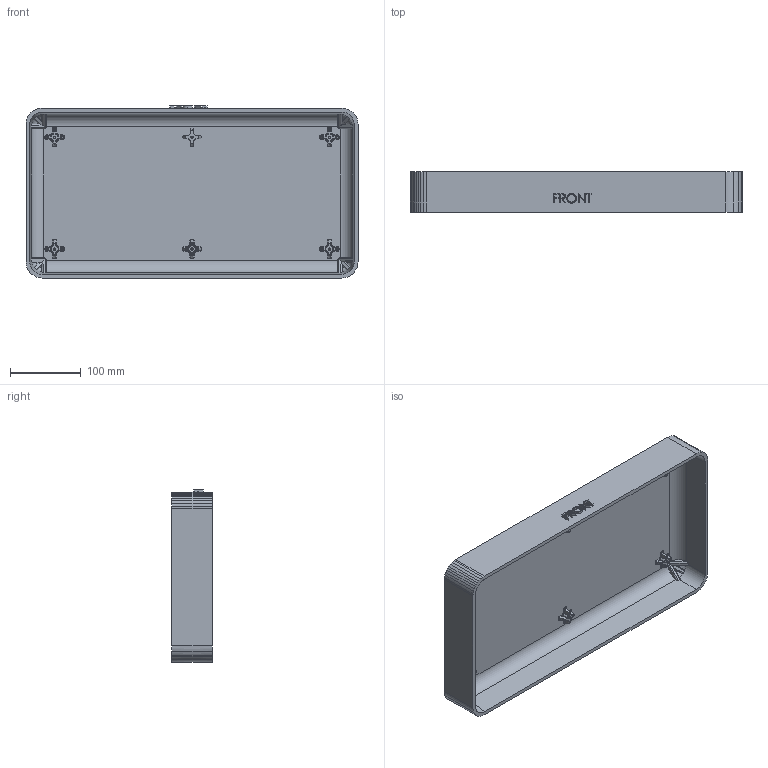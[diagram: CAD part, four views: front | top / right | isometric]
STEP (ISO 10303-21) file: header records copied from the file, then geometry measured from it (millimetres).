
FILE_DESCRIPTION (( 'STEP AP203' ), '1' );
FILE_NAME ('1440_CASE_TOP.STEP', '2006-06-22T00:21:52', ( ' ' ), ( ' ' ), 'SwSTEP 2.0', 'SolidWorks 2005143', '' );
FILE_SCHEMA (( 'CONFIG_CONTROL_DESIGN' ));
Products named in the file (1): 1440_CASE_TOP
Bounding box: 467.84 x 57.15 x 242.42 mm (x, y, z)
Volume: 1288838.2 mm3; surface area: 364460.7 mm2
Topology: 1 solids, 1 shells, 720 faces, 1831 edges, 1077 vertices
Faces by surface type: cylinder 184, bspline 163, plane 153, torus 130, sphere 48, cone 42
Entity records: 60643 total; most frequent: CARTESIAN_POINT 44415, ORIENTED_EDGE 3582, DIRECTION 3178, EDGE_CURVE 1791, AXIS2_PLACEMENT_3D 1299, VERTEX_POINT 1077, CIRCLE 741, EDGE_LOOP 740
